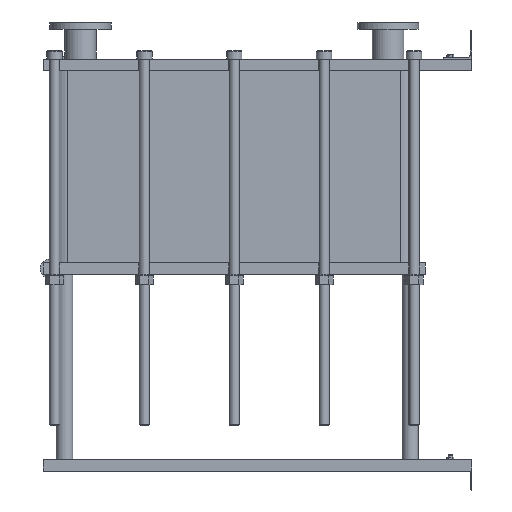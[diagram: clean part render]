
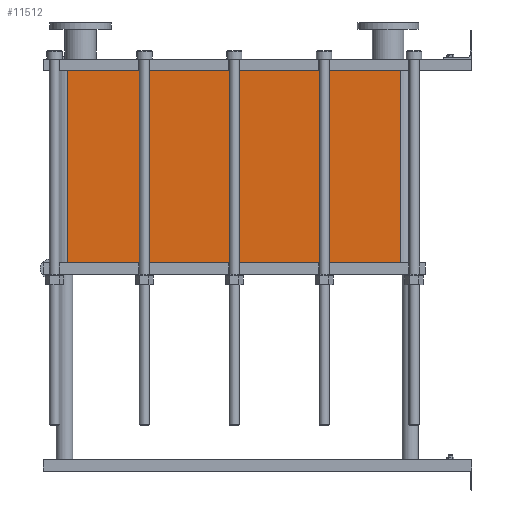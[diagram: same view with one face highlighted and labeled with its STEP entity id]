
A CAD part, left-side view. The second image highlights one B-rep face of the part: STEP entity #11512.
In plain terms, the highlighted planar face has unit normal (-1, 0, 0).
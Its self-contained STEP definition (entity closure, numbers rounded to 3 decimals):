
#1129=LINE('',#23232,#2102);
#1130=LINE('',#23236,#2103);
#1131=LINE('',#23238,#2104);
#1132=LINE('',#23239,#2105);
#2102=VECTOR('',#15887,10.);
#2103=VECTOR('',#15892,10.);
#2104=VECTOR('',#15893,10.);
#2105=VECTOR('',#15894,10.);
#3267=FACE_OUTER_BOUND('',#4093,.T.);
#4093=EDGE_LOOP('',(#10103,#10104,#10105,#10106));
#5642=VERTEX_POINT('',#23229);
#5643=VERTEX_POINT('',#23231);
#5644=VERTEX_POINT('',#23235);
#5645=VERTEX_POINT('',#23237);
#7159=EDGE_CURVE('',#5643,#5642,#1129,.T.);
#7161=EDGE_CURVE('',#5642,#5644,#1130,.T.);
#7162=EDGE_CURVE('',#5645,#5644,#1131,.T.);
#7163=EDGE_CURVE('',#5645,#5643,#1132,.T.);
#10103=ORIENTED_EDGE('',*,*,#7161,.T.);
#10104=ORIENTED_EDGE('',*,*,#7162,.F.);
#10105=ORIENTED_EDGE('',*,*,#7163,.T.);
#10106=ORIENTED_EDGE('',*,*,#7159,.T.);
#10857=PLANE('',#12751);
#11512=ADVANCED_FACE('',(#3267),#10857,.T.);
#12751=AXIS2_PLACEMENT_3D('',#23234,#15890,#15891);
#15887=DIRECTION('',(0.,0.,-1.));
#15890=DIRECTION('center_axis',(-1.,0.,0.));
#15891=DIRECTION('ref_axis',(0.,1.,0.));
#15892=DIRECTION('',(0.,-1.,0.));
#15893=DIRECTION('',(0.,0.,-1.));
#15894=DIRECTION('',(0.,1.,0.));
#23229=CARTESIAN_POINT('',(-200.,1414.,-672.75));
#23231=CARTESIAN_POINT('',(-200.,1414.,0.));
#23232=CARTESIAN_POINT('',(-200.,1414.,0.));
#23234=CARTESIAN_POINT('Origin',(-200.,248.,0.));
#23235=CARTESIAN_POINT('',(-200.,248.,-672.75));
#23236=CARTESIAN_POINT('',(-200.,539.5,-672.75));
#23237=CARTESIAN_POINT('',(-200.,248.,0.));
#23238=CARTESIAN_POINT('',(-200.,248.,0.));
#23239=CARTESIAN_POINT('',(-200.,248.,0.));
